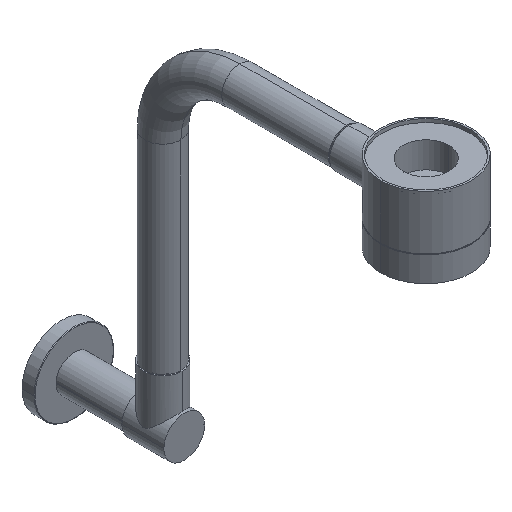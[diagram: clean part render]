
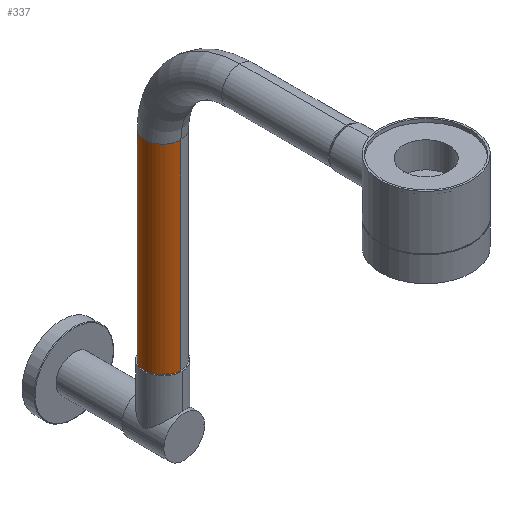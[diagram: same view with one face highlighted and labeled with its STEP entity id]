
A CAD part, isometric view. The second image highlights one B-rep face of the part: STEP entity #337.
In plain terms, the highlighted cylindrical face has radius 16 mm (diameter 32 mm), a partial arc.
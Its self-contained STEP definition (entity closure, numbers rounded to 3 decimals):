
#175 = ORIENTED_EDGE ( 'NONE', *, *, #835, .T. ) ;
#197 = ORIENTED_EDGE ( 'NONE', *, *, #1355, .F. ) ;
#287 = CIRCLE ( 'NONE', #1366, 16. ) ;
#304 = CARTESIAN_POINT ( 'NONE',  ( 0., 0., 176. ) ) ;
#308 = DIRECTION ( 'NONE',  ( -1., 0., 0. ) ) ;
#320 = CYLINDRICAL_SURFACE ( 'NONE', #558, 16. ) ;
#337 = ADVANCED_FACE ( 'NONE', ( #472 ), #320, .T. ) ;
#424 = DIRECTION ( 'NONE',  ( 0., 0., 1. ) ) ;
#445 = EDGE_LOOP ( 'NONE', ( #1644, #197, #1323, #175 ) ) ;
#464 = DIRECTION ( 'NONE',  ( 0., 0., -1. ) ) ;
#472 = FACE_OUTER_BOUND ( 'NONE', #445, .T. ) ;
#477 = CARTESIAN_POINT ( 'NONE',  ( -16., 0., 176. ) ) ;
#480 = DIRECTION ( 'NONE',  ( 1., 0., 0. ) ) ;
#558 = AXIS2_PLACEMENT_3D ( 'NONE', #951, #1705, #308 ) ;
#655 = AXIS2_PLACEMENT_3D ( 'NONE', #891, #424, #1950 ) ;
#798 = CARTESIAN_POINT ( 'NONE',  ( -16., 0., 0. ) ) ;
#835 = EDGE_CURVE ( 'NONE', #1836, #957, #1086, .T. ) ;
#891 = CARTESIAN_POINT ( 'NONE',  ( 0., 0., 0. ) ) ;
#916 = CARTESIAN_POINT ( 'NONE',  ( 16., 0., 176. ) ) ;
#937 = LINE ( 'NONE', #477, #1842 ) ;
#951 = CARTESIAN_POINT ( 'NONE',  ( 0., 0., 176. ) ) ;
#956 = CARTESIAN_POINT ( 'NONE',  ( 16., 0., 176. ) ) ;
#957 = VERTEX_POINT ( 'NONE', #1805 ) ;
#960 = VECTOR ( 'NONE', #1085, 1000. ) ;
#1085 = DIRECTION ( 'NONE',  ( 0., 0., -1. ) ) ;
#1086 = CIRCLE ( 'NONE', #655, 16. ) ;
#1323 = ORIENTED_EDGE ( 'NONE', *, *, #1823, .T. ) ;
#1354 = VERTEX_POINT ( 'NONE', #956 ) ;
#1355 = EDGE_CURVE ( 'NONE', #1829, #1354, #287, .T. ) ;
#1366 = AXIS2_PLACEMENT_3D ( 'NONE', #304, #1880, #480 ) ;
#1644 = ORIENTED_EDGE ( 'NONE', *, *, #1922, .F. ) ;
#1705 = DIRECTION ( 'NONE',  ( 0., 0., -1. ) ) ;
#1744 = CARTESIAN_POINT ( 'NONE',  ( -16., 0., 176. ) ) ;
#1805 = CARTESIAN_POINT ( 'NONE',  ( 16., 0., 0. ) ) ;
#1823 = EDGE_CURVE ( 'NONE', #1829, #1836, #937, .T. ) ;
#1829 = VERTEX_POINT ( 'NONE', #1744 ) ;
#1836 = VERTEX_POINT ( 'NONE', #798 ) ;
#1842 = VECTOR ( 'NONE', #464, 1000. ) ;
#1855 = LINE ( 'NONE', #916, #960 ) ;
#1880 = DIRECTION ( 'NONE',  ( 0., 0., 1. ) ) ;
#1922 = EDGE_CURVE ( 'NONE', #1354, #957, #1855, .T. ) ;
#1950 = DIRECTION ( 'NONE',  ( -1., 0., 0. ) ) ;
